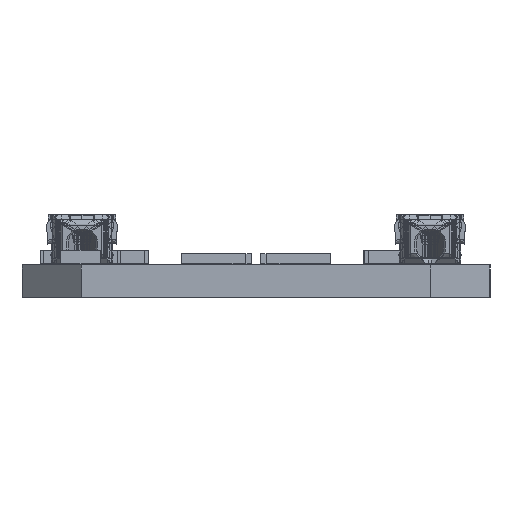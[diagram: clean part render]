
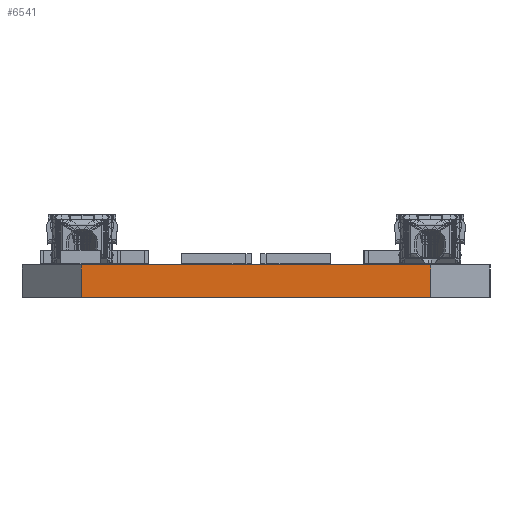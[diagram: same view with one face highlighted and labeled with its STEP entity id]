
A CAD part, left-side view. The second image highlights one B-rep face of the part: STEP entity #6541.
In plain terms, the highlighted planar face has unit normal (-1, 0, 0).
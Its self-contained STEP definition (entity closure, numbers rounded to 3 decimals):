
#576=DIRECTION('',(0.,1.,0.));
#577=VECTOR('',#576,17.6);
#578=CARTESIAN_POINT('',(-559.5,-8.8,1.65));
#579=LINE('',#578,#577);
#2152=DIRECTION('',(0.,0.,1.));
#2153=VECTOR('',#2152,1.65);
#2154=CARTESIAN_POINT('',(-559.5,8.8,0.));
#2155=LINE('',#2154,#2153);
#2194=DIRECTION('',(0.,0.,1.));
#2195=VECTOR('',#2194,1.65);
#2196=CARTESIAN_POINT('',(-559.5,-8.8,0.));
#2197=LINE('',#2196,#2195);
#2257=DIRECTION('',(0.,-1.,0.));
#2258=VECTOR('',#2257,17.6);
#2259=CARTESIAN_POINT('',(-559.5,8.8,0.));
#2260=LINE('',#2259,#2258);
#5797=CARTESIAN_POINT('',(-559.5,8.8,0.));
#5798=CARTESIAN_POINT('',(-559.5,8.8,1.65));
#5799=VERTEX_POINT('',#5797);
#5800=VERTEX_POINT('',#5798);
#5801=CARTESIAN_POINT('',(-559.5,-8.8,0.));
#5802=CARTESIAN_POINT('',(-559.5,-8.8,1.65));
#5803=VERTEX_POINT('',#5801);
#5804=VERTEX_POINT('',#5802);
#6527=CARTESIAN_POINT('',(-559.5,0.,0.825));
#6528=DIRECTION('',(1.,0.,0.));
#6529=DIRECTION('',(0.,0.,1.));
#6530=AXIS2_PLACEMENT_3D('',#6527,#6528,#6529);
#6531=PLANE('',#6530);
#6533=ORIENTED_EDGE('',*,*,#6532,.T.);
#6534=ORIENTED_EDGE('',*,*,#5993,.F.);
#6536=ORIENTED_EDGE('',*,*,#6535,.F.);
#6538=ORIENTED_EDGE('',*,*,#6537,.F.);
#6539=EDGE_LOOP('',(#6533,#6534,#6536,#6538));
#6540=FACE_OUTER_BOUND('',#6539,.F.);
#5993=EDGE_CURVE('',#5804,#5800,#579,.T.);
#6532=EDGE_CURVE('',#5799,#5800,#2155,.T.);
#6535=EDGE_CURVE('',#5803,#5804,#2197,.T.);
#6537=EDGE_CURVE('',#5799,#5803,#2260,.T.);
#6541=ADVANCED_FACE('',(#6540),#6531,.F.);
